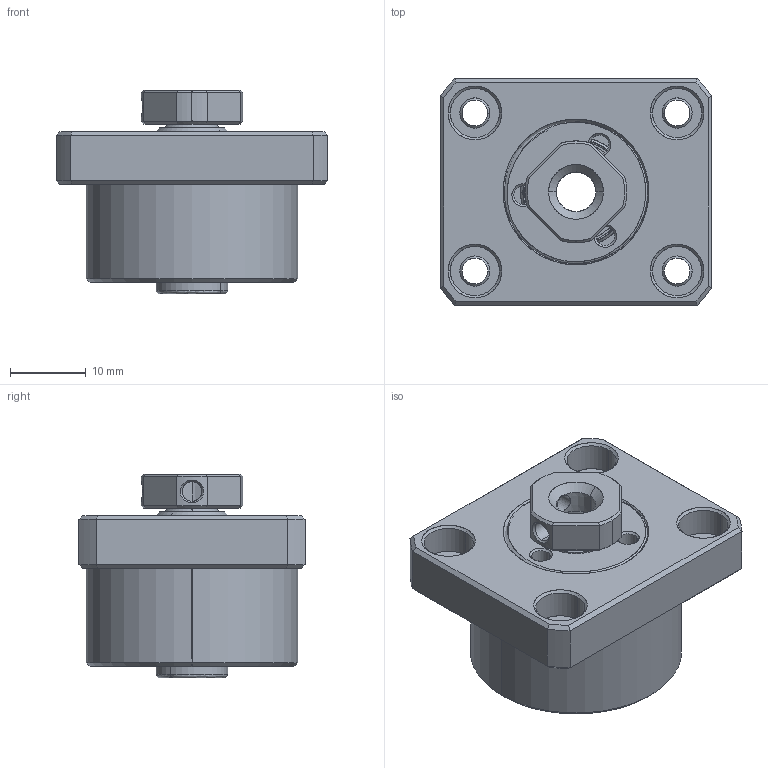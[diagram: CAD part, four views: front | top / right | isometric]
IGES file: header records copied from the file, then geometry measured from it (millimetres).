
Start section: SolidWorks IGES file using analytic representation for surfaces
Bounding box: 36 x 30 x 27 mm (x, y, z)
Surface area: 6309.6 mm2 (no closed solid volume)
Topology: 0 solids, 0 shells, 171 faces, 2273 edges, 2272 vertices
Faces by surface type: revolution 120, bspline 51
